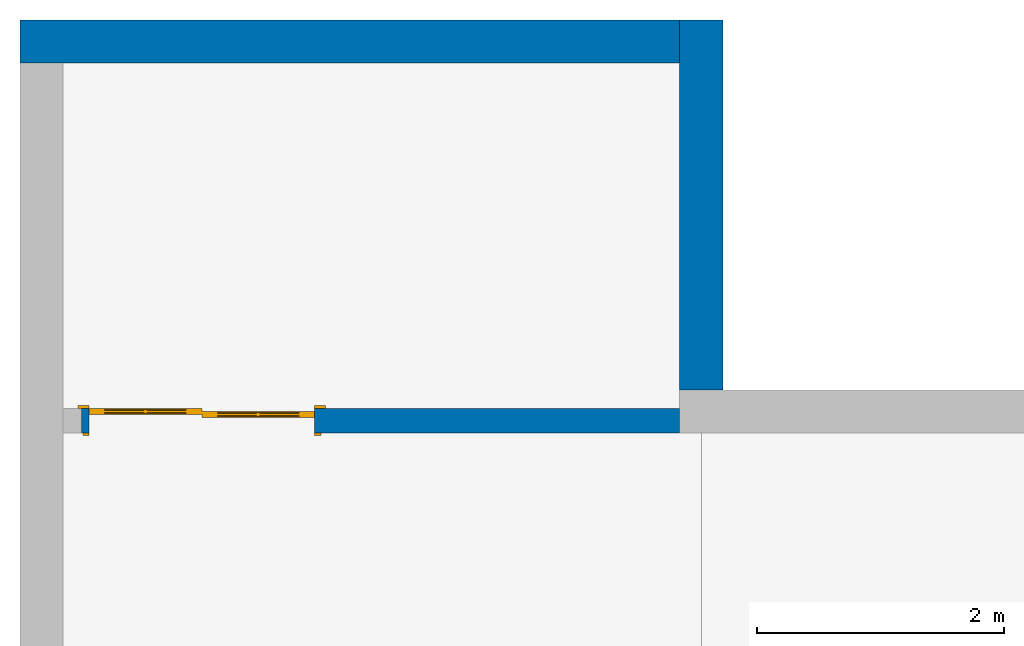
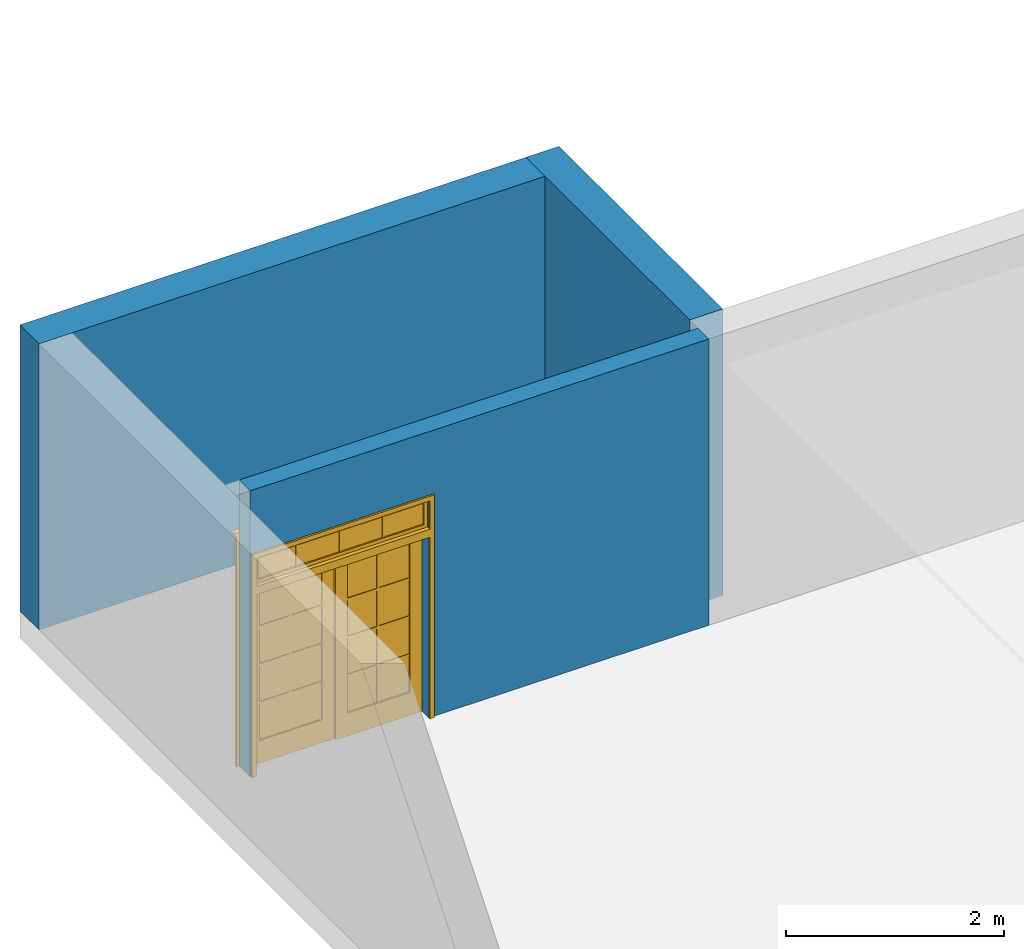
# One storey, part 2 of 5: 3 walls, 1 door, 1 opening.
"""IFC2X3 building model written with IfcOpenShell, lengths in metres."""

from ifc_helpers import new_model, entity, si_unit, converted_unit, derived_unit, direction, frame, frame_2d, origin, place, context, subcontext, project, spatial, rectangle, extrude, faceted_brep, source, transform, mapped, material, material_list, layer, layer_set, layer_usage, type_object, type_shapes, element, fill, save


model = new_model("IFC2X3")

# Units and contexts
model_context = context("Model", 3, precision=1e-05, world=origin(), true_north=direction((6.123031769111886e-17, 1.0)))
body_context = subcontext(model_context, "Body", "Model", "MODEL_VIEW")
ifc_project = project(units=[si_unit("LENGTHUNIT", "METRE"), si_unit("AREAUNIT", "SQUARE_METRE"), si_unit("VOLUMEUNIT", "CUBIC_METRE"), converted_unit("PLANEANGLEUNIT", "DEGREE", entity("IfcRatioMeasure", 0.017453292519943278), si_unit("PLANEANGLEUNIT", "RADIAN"), dimensions=[0, 0, 0, 0, 0, 0, 0]), si_unit("MASSUNIT", "GRAM", prefix="KILO"), derived_unit("MASSDENSITYUNIT", [(si_unit("MASSUNIT", "GRAM", prefix="KILO"), 1), (si_unit("LENGTHUNIT", "METRE"), -3)]), derived_unit("MOMENTOFINERTIAUNIT", [(si_unit("LENGTHUNIT", "METRE"), 4)]), si_unit("TIMEUNIT", "SECOND"), si_unit("FREQUENCYUNIT", "HERTZ"), si_unit("THERMODYNAMICTEMPERATUREUNIT", "DEGREE_CELSIUS"), derived_unit("THERMALTRANSMITTANCEUNIT", [(si_unit("MASSUNIT", "GRAM", prefix="KILO"), 1), (si_unit("THERMODYNAMICTEMPERATUREUNIT", "KELVIN"), -1), (si_unit("TIMEUNIT", "SECOND"), -3)]), derived_unit("VOLUMETRICFLOWRATEUNIT", [(si_unit("LENGTHUNIT", "METRE"), 3), (si_unit("TIMEUNIT", "SECOND"), -1)]), derived_unit("MASSFLOWRATEUNIT", [(si_unit("MASSUNIT", "GRAM", prefix="KILO"), 1), (si_unit("TIMEUNIT", "SECOND"), -1)]), derived_unit("ROTATIONALFREQUENCYUNIT", [(si_unit("TIMEUNIT", "SECOND"), -1)]), si_unit("ELECTRICCURRENTUNIT", "AMPERE"), si_unit("ELECTRICVOLTAGEUNIT", "VOLT"), si_unit("POWERUNIT", "WATT"), si_unit("FORCEUNIT", "NEWTON", prefix="KILO"), si_unit("ILLUMINANCEUNIT", "LUX"), si_unit("LUMINOUSFLUXUNIT", "LUMEN"), si_unit("LUMINOUSINTENSITYUNIT", "CANDELA"), derived_unit("USERDEFINED", [(si_unit("MASSUNIT", "GRAM", prefix="KILO"), -1), (si_unit("LENGTHUNIT", "METRE"), -2), (si_unit("TIMEUNIT", "SECOND"), 3), (si_unit("LUMINOUSFLUXUNIT", "LUMEN"), 1)]), derived_unit("SOUNDPOWERUNIT", [(si_unit("MASSUNIT", "GRAM", prefix="KILO"), 1), (si_unit("LENGTHUNIT", "METRE"), 2), (si_unit("TIMEUNIT", "SECOND"), -3)]), derived_unit("SOUNDPRESSUREUNIT", [(si_unit("MASSUNIT", "GRAM", prefix="KILO"), 1), (si_unit("LENGTHUNIT", "METRE"), -1), (si_unit("TIMEUNIT", "SECOND"), -2)]), derived_unit("LINEARVELOCITYUNIT", [(si_unit("LENGTHUNIT", "METRE"), 1), (si_unit("TIMEUNIT", "SECOND"), -1)]), si_unit("PRESSUREUNIT", "PASCAL"), derived_unit("USERDEFINED", [(si_unit("LENGTHUNIT", "METRE"), -2), (si_unit("MASSUNIT", "GRAM", prefix="KILO"), 1), (si_unit("TIMEUNIT", "SECOND"), -2)]), derived_unit("LINEARFORCEUNIT", [(si_unit("MASSUNIT", "GRAM", prefix="KILO"), 1), (si_unit("LENGTHUNIT", "METRE"), 1), (si_unit("TIMEUNIT", "SECOND"), -2), (si_unit("LENGTHUNIT", "METRE"), -1)]), derived_unit("PLANARFORCEUNIT", [(si_unit("MASSUNIT", "GRAM", prefix="KILO"), 1), (si_unit("LENGTHUNIT", "METRE"), 1), (si_unit("TIMEUNIT", "SECOND"), -2), (si_unit("LENGTHUNIT", "METRE"), -2)])], contexts=[model_context])

# Site, building, storey
site_placement = place(None, origin())
site = spatial("IfcSite", under=ifc_project, at=site_placement, Name="Default", CompositionType="ELEMENT")
building_placement = place(site_placement, origin())
building = spatial("IfcBuilding", under=site, at=building_placement, CompositionType="ELEMENT")
storey_placement = place(building_placement, frame((0.0, 0.0, -2.3)))
storey = spatial("IfcBuildingStorey", under=building, at=storey_placement, Name="B1", CompositionType="ELEMENT", Elevation=-2.3)

# Walls
ifc_material_1 = material(Name="Masonry - Concrete Block")
ifc_layer_1 = layer(ifc_material_1, 0.35)
ifc_layer_set_1 = layer_set([ifc_layer_1], Name="Basic Wall:CW 350")
ifc_layer_usage_1 = layer_usage(ifc_layer_set_1, "AXIS2", "NEGATIVE", 0.175)
wall_type_1 = type_object("IfcWallType", Name="Basic Wall:CW 350", PredefinedType="STANDARD", material=ifc_layer_set_1)
wall_1_placement = place(storey_placement, frame((6.782683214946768, 2.999707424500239, 0.0), z_axis=(0.0, 0.0, 1.0), x_axis=(0.0, 1.0, 0.0)))
element("IfcWallStandardCase", 1, at=wall_1_placement, inside=storey, type_object=wall_type_1, material=ifc_layer_usage_1, Name="Basic Wall:CW 350", ObjectType="Basic Wall:CW 350", context=body_context, shape_type="SweptSolid", body=[
    extrude(rectangle(XDim=2.9999999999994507, YDim=0.3500000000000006, at=frame_2d((1.4999999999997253, 0.0), x_axis=(-1.0, 0.0))), origin(), (0.0, 0.0, 1.0), 3.2),
])
ifc_layer_usage_2 = layer_usage(ifc_layer_set_1, "AXIS2", "NEGATIVE", 0.175)
wall_2_placement = place(storey_placement, frame((6.607683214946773, 5.82470742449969, 0.0), z_axis=(0.0, 0.0, 1.0), x_axis=(-1.0, 0.0, 0.0)))
element("IfcWallStandardCase", 2, at=wall_2_placement, inside=storey, type_object=wall_type_1, material=ifc_layer_usage_2, Name="Basic Wall:CW 350", ObjectType="Basic Wall:CW 350", context=body_context, shape_type="SweptSolid", body=[
    extrude(rectangle(XDim=5.349999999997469, YDim=0.3500000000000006, at=frame_2d((2.6749999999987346, 0.0), x_axis=(-1.0, 0.0))), origin(), (0.0, 0.0, 1.0), 3.2),
])

# Wall, opening, door
ifc_layer_2 = layer(ifc_material_1, 0.2)
ifc_layer_set_2 = layer_set([ifc_layer_2], Name="Basic Wall:CW 200")
ifc_layer_usage_3 = layer_usage(ifc_layer_set_2, "AXIS2", "NEGATIVE", 0.1)
wall_type_2 = type_object("IfcWallType", Name="Basic Wall:CW 200", PredefinedType="STANDARD", material=ifc_layer_set_2)
wall_3_placement = place(storey_placement, frame((6.607683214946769, 2.7497074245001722, 0.0), z_axis=(0.0, 0.0, 1.0), x_axis=(-1.0, 0.0, 0.0)))
wall_3 = element("IfcWallStandardCase", 3, at=wall_3_placement, inside=storey, type_object=wall_type_2, material=ifc_layer_usage_3, Name="Basic Wall:CW 200", ObjectType="Basic Wall:CW 200", context=body_context, shape_type="SweptSolid", body=[
    extrude(rectangle(XDim=4.8499999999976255, YDim=0.2, at=frame_2d((2.4249999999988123, 2.7755575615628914e-17), x_axis=(1.0, 0.0))), origin(), (0.0, 0.0, 1.0), 3.2),
])
opening_placement = place(wall_3_placement, frame((4.789999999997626, 0.09999999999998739, 0.0)))
opening = element("IfcOpeningElement", 4, at=opening_placement, cuts=wall_3, Name="Double_8_lite_patio_door_5282:36x2\" x 80\" w/transom\":1", ObjectType="Opening", context=body_context, shape_type="SweptSolid", body=[
    extrude(rectangle(XDim=1.8287999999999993, YDim=2.4384000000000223, at=frame_2d((1.2192000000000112, 0.9143999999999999), x_axis=(0.0, 1.0))), frame((0.0, 0.0, 0.0), z_axis=(0.0, -1.0, 0.0), x_axis=(0.0, 0.0, 1.0)), (0.0, 0.0, 1.0), 0.2),
])
ifc_material_2 = material(Name="<Unnamed>")
ifc_material_3 = material(Name="Door - Panel")
ifc_material_4 = material(Name="Glazing - Window Glazing")
ifc_material_5 = material(Name="Finishes - Exterior - Trim")
ifc_material_6 = material(Name="Finishes - Interior - Trim")
ifc_material_list_1 = material_list([ifc_material_2, ifc_material_3, ifc_material_3, ifc_material_4, ifc_material_3, ifc_material_3, ifc_material_3, ifc_material_4, ifc_material_3, ifc_material_5, ifc_material_4, ifc_material_3, ifc_material_3, ifc_material_5, ifc_material_5, ifc_material_5, ifc_material_6])
ifc_material_list_2 = material_list([ifc_material_2, ifc_material_3, ifc_material_3, ifc_material_4, ifc_material_3, ifc_material_3, ifc_material_3, ifc_material_4, ifc_material_3, ifc_material_5, ifc_material_4, ifc_material_3, ifc_material_3, ifc_material_5, ifc_material_5, ifc_material_5, ifc_material_6])
door_style = type_object("IfcDoorStyle", Name="Double_8_lite_patio_door_5282:36x2\" x 80\" w/transom\"", ConstructionType="NOTDEFINED", OperationType="NOTDEFINED", ParameterTakesPrecedence=False, Sizeable=False, material=ifc_material_list_2)
shared_shape = source(origin(), body_context, "Body", "Brep", [
    faceted_brep([(0.1524000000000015, 0.2000000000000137, 2.0319999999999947), (1.9812000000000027, 0.20000000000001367, 2.0319999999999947), (1.9812000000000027, 0.0, 2.0319999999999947), (0.1524000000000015, 0.0, 2.0319999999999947), (0.1524000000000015, 0.2000000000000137, 2.120899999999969), (0.1524000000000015, 0.0, 2.120899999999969), (1.9812000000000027, 0.0, 2.120899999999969), (1.9812000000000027, 0.20000000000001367, 2.120899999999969)], [[[0, 1, 2, 3]], [[4, 5, 6, 7]], [[3, 5, 4, 0]], [[2, 6, 5, 3]], [[1, 7, 6, 2]], [[0, 4, 7, 1]]]),
    faceted_brep([(0.5969000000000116, 0.1666750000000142, 2.1589999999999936), (0.5969000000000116, 0.1666750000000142, 2.40030000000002), (0.6223000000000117, 0.1666750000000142, 2.40030000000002), (0.6223000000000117, 0.1666750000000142, 2.1589999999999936), (0.5969000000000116, 0.1349250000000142, 2.1589999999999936), (0.6223000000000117, 0.1349250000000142, 2.1589999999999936), (0.6223000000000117, 0.1349250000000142, 2.40030000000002), (0.5969000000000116, 0.1349250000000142, 2.40030000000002)], [[[0, 1, 2, 3]], [[4, 5, 6, 7]], [[3, 5, 4, 0]], [[2, 6, 5, 3]], [[1, 7, 6, 2]], [[0, 4, 7, 1]]]),
    faceted_brep([(1.5112999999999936, 0.1666750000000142, 2.15899999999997), (1.5112999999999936, 0.1666750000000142, 2.4002999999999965), (1.536699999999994, 0.1666750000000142, 2.4002999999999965), (1.536699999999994, 0.1666750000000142, 2.15899999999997), (1.5112999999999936, 0.1349250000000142, 2.15899999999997), (1.536699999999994, 0.1349250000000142, 2.15899999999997), (1.536699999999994, 0.1349250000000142, 2.4002999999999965), (1.5112999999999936, 0.1349250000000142, 2.4002999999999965)], [[[0, 1, 2, 3]], [[4, 5, 6, 7]], [[3, 5, 4, 0]], [[2, 6, 5, 3]], [[1, 7, 6, 2]], [[0, 4, 7, 1]]]),
    faceted_brep([(0.9652000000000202, 0.058725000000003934, 1.93040000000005), (0.9651999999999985, 0.058725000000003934, 0.25400000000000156), (0.2286000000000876, 0.058725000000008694, 0.2540000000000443), (0.2286000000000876, 0.058725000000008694, 1.93040000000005), (0.9652000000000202, 0.03967500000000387, 1.93040000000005), (0.22860000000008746, 0.03967500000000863, 1.93040000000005), (0.22860000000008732, 0.03967500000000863, 0.2540000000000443), (0.9651999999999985, 0.03967500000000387, 0.25400000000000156)], [[[0, 1, 2, 3]], [[4, 5, 6, 7]], [[3, 5, 4, 0]], [[2, 6, 5, 3]], [[1, 7, 6, 2]], [[0, 4, 7, 1]]]),
    faceted_brep([(0.5969000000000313, 0.06507500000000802, 0.6794500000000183), (0.5969000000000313, 0.06507500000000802, 1.0795000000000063), (0.2794000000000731, 0.06507500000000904, 1.0795000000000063), (0.2794000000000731, 0.06507500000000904, 1.1049000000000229), (0.5969000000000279, 0.06507500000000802, 1.1049000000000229), (0.5969000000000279, 0.06507500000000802, 1.5049500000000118), (0.2794000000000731, 0.06507500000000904, 1.5049500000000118), (0.2794000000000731, 0.06507500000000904, 1.5303500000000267), (0.596900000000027, 0.06507500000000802, 1.5303500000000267), (0.596900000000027, 0.06507500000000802, 1.9304000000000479), (0.622300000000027, 0.06507500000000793, 1.9304000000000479), (0.622300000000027, 0.06507500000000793, 1.5303500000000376), (0.9397999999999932, 0.06507500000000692, 1.5303500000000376), (0.9397999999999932, 0.06507500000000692, 1.5049500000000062), (0.6223000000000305, 0.06507500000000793, 1.5049500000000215), (0.6223000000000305, 0.06507500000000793, 1.1049000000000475), (0.9397999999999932, 0.06507500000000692, 1.1049000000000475), (0.9397999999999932, 0.06507500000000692, 1.0795000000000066), (0.6223000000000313, 0.06507500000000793, 1.0795000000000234), (0.6223000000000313, 0.06507500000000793, 0.6794500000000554), (0.9397999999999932, 0.06507500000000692, 0.6794500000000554), (0.9397999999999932, 0.06507500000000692, 0.6540499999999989), (0.6223000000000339, 0.06507500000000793, 0.6540500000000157), (0.6223000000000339, 0.06507500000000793, 0.25400000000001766), (0.5969000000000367, 0.06507500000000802, 0.25400000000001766), (0.5969000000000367, 0.06507500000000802, 0.6540500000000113), (0.2794000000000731, 0.06507500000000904, 0.6540500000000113), (0.2794000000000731, 0.06507500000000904, 0.6794500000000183), (0.5969000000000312, 0.033325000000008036, 0.6794500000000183), (0.2794000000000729, 0.033325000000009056, 0.6794500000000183), (0.2794000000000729, 0.033325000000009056, 0.6540500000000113), (0.5969000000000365, 0.033325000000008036, 0.6540500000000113), (0.5969000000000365, 0.033325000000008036, 0.25400000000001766), (0.6223000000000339, 0.033325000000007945, 0.25400000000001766), (0.6223000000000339, 0.033325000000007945, 0.6540500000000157), (0.9397999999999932, 0.03332500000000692, 0.6540499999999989), (0.9397999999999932, 0.03332500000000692, 0.6794500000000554), (0.6223000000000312, 0.033325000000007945, 0.6794500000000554), (0.6223000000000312, 0.033325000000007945, 1.0795000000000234), (0.9397999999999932, 0.03332500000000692, 1.0795000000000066), (0.9397999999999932, 0.03332500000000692, 1.1049000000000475), (0.6223000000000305, 0.033325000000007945, 1.1049000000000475), (0.6223000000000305, 0.033325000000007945, 1.5049500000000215), (0.9397999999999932, 0.03332500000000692, 1.5049500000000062), (0.9397999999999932, 0.03332500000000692, 1.5303500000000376), (0.6223000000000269, 0.033325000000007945, 1.5303500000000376), (0.6223000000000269, 0.033325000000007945, 1.9304000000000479), (0.5969000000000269, 0.033325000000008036, 1.9304000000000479), (0.596900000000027, 0.033325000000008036, 1.5303500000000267), (0.2794000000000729, 0.033325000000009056, 1.5303500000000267), (0.2794000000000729, 0.033325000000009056, 1.5049500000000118), (0.5969000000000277, 0.033325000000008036, 1.5049500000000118), (0.5969000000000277, 0.033325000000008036, 1.1049000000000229), (0.2794000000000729, 0.033325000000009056, 1.1049000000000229), (0.2794000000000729, 0.033325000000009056, 1.0795000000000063), (0.5969000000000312, 0.033325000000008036, 1.0795000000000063)], [[[0, 1, 2, 3, 4, 5, 6, 7, 8, 9, 10, 11, 12, 13, 14, 15, 16, 17, 18, 19, 20, 21, 22, 23, 24, 25, 26, 27]], [[28, 29, 30, 31, 32, 33, 34, 35, 36, 37, 38, 39, 40, 41, 42, 43, 44, 45, 46, 47, 48, 49, 50, 51, 52, 53, 54, 55]], [[27, 29, 28, 0]], [[26, 30, 29, 27]], [[25, 31, 30, 26]], [[24, 32, 31, 25]], [[23, 33, 32, 24]], [[22, 34, 33, 23]], [[21, 35, 34, 22]], [[20, 36, 35, 21]], [[19, 37, 36, 20]], [[18, 38, 37, 19]], [[17, 39, 38, 18]], [[16, 40, 39, 17]], [[15, 41, 40, 16]], [[14, 42, 41, 15]], [[13, 43, 42, 14]], [[12, 44, 43, 13]], [[11, 45, 44, 12]], [[10, 46, 45, 11]], [[9, 47, 46, 10]], [[8, 48, 47, 9]], [[7, 49, 48, 8]], [[6, 50, 49, 7]], [[5, 51, 50, 6]], [[4, 52, 51, 5]], [[3, 53, 52, 4]], [[2, 54, 53, 3]], [[1, 55, 54, 2]], [[0, 28, 55, 1]]]),
    faceted_brep([(1.0668000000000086, 0.0746000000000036, 2.032000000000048), (1.0668000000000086, 0.0746000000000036, 0.0), (0.152400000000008, 0.0746000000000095, 0.0), (0.152400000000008, 0.0746000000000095, 2.032000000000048), (0.9398000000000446, 0.07460000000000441, 1.9304000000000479), (0.2794000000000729, 0.07460000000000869, 1.9304000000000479), (0.2794000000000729, 0.07460000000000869, 0.25400000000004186), (0.9397999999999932, 0.07460000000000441, 0.25400000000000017), (1.0668000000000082, 0.023800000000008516, 2.032000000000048), (0.15240000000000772, 0.02380000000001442, 2.032000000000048), (0.15240000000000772, 0.02380000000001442, 0.0), (1.0668000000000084, 0.023800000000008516, 0.0), (0.9398000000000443, 0.023800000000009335, 1.9304000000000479), (0.9397999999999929, 0.023800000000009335, 0.25400000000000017), (0.27940000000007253, 0.0238000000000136, 0.25400000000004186), (0.27940000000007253, 0.0238000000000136, 1.9304000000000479)], [[[0, 1, 2, 3], [4, 5, 6, 7]], [[8, 9, 10, 11], [12, 13, 14, 15]], [[3, 9, 8, 0]], [[2, 10, 9, 3]], [[1, 11, 10, 2]], [[0, 8, 11, 1]], [[7, 13, 12, 4]], [[6, 14, 13, 7]], [[5, 15, 14, 6]], [[4, 12, 15, 5]]]),
    faceted_brep([(1.5366999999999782, 0.04127500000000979, 0.6794500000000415), (1.854199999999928, 0.04127500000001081, 0.6794500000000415), (1.854199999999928, 0.04127500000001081, 0.6540499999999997), (1.5366999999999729, 0.04127500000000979, 0.6540499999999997), (1.5366999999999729, 0.04127500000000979, 0.2540000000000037), (1.5112999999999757, 0.0412750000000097, 0.2540000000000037), (1.5112999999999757, 0.0412750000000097, 0.6540500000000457), (1.1938000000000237, 0.04127500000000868, 0.6540500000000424), (1.1938000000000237, 0.04127500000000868, 0.6794500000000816), (1.5112999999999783, 0.0412750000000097, 0.6794500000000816), (1.5112999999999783, 0.0412750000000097, 1.079500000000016), (1.1938000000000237, 0.04127500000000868, 1.07950000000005), (1.1938000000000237, 0.04127500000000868, 1.1049000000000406), (1.5112999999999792, 0.0412750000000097, 1.1049000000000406), (1.5112999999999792, 0.0412750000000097, 1.5049500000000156), (1.1938000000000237, 0.04127500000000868, 1.50495000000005), (1.1938000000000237, 0.04127500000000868, 1.5303500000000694), (1.5112999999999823, 0.0412750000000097, 1.5303500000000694), (1.5112999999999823, 0.0412750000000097, 1.9304000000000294), (1.5366999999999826, 0.04127500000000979, 1.9304000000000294), (1.5366999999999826, 0.04127500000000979, 1.5303500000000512), (1.854199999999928, 0.04127500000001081, 1.5303500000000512), (1.854199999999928, 0.04127500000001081, 1.5049499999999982), (1.5366999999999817, 0.04127500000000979, 1.5049499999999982), (1.5366999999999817, 0.04127500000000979, 1.104900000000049), (1.854199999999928, 0.04127500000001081, 1.104900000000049), (1.854199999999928, 0.04127500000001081, 1.079499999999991), (1.5366999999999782, 0.04127500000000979, 1.079499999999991), (1.5366999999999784, 0.009525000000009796, 0.6794500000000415), (1.5366999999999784, 0.009525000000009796, 1.079499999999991), (1.8541999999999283, 0.009525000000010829, 1.079499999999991), (1.8541999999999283, 0.009525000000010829, 1.104900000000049), (1.536699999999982, 0.009525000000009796, 1.104900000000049), (1.536699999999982, 0.009525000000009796, 1.5049499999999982), (1.8541999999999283, 0.009525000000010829, 1.5049499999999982), (1.8541999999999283, 0.009525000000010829, 1.5303500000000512), (1.5366999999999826, 0.009525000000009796, 1.5303500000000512), (1.5366999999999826, 0.009525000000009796, 1.9304000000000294), (1.5112999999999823, 0.009525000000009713, 1.9304000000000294), (1.5112999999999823, 0.009525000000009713, 1.5303500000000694), (1.193800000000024, 0.009525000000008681, 1.5303500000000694), (1.193800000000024, 0.009525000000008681, 1.50495000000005), (1.5112999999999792, 0.009525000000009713, 1.5049500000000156), (1.5112999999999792, 0.009525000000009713, 1.1049000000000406), (1.193800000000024, 0.009525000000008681, 1.1049000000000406), (1.193800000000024, 0.009525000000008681, 1.07950000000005), (1.5112999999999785, 0.009525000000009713, 1.079500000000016), (1.5112999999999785, 0.009525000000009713, 0.6794500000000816), (1.193800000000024, 0.009525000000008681, 0.6794500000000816), (1.193800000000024, 0.009525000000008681, 0.6540500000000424), (1.5112999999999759, 0.009525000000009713, 0.6540500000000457), (1.5112999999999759, 0.009525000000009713, 0.2540000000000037), (1.536699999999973, 0.009525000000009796, 0.2540000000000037), (1.536699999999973, 0.009525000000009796, 0.6540499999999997), (1.8541999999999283, 0.009525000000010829, 0.6540499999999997), (1.8541999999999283, 0.009525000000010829, 0.6794500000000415)], [[[0, 1, 2, 3, 4, 5, 6, 7, 8, 9, 10, 11, 12, 13, 14, 15, 16, 17, 18, 19, 20, 21, 22, 23, 24, 25, 26, 27]], [[28, 29, 30, 31, 32, 33, 34, 35, 36, 37, 38, 39, 40, 41, 42, 43, 44, 45, 46, 47, 48, 49, 50, 51, 52, 53, 54, 55]], [[27, 29, 28, 0]], [[26, 30, 29, 27]], [[25, 31, 30, 26]], [[24, 32, 31, 25]], [[23, 33, 32, 24]], [[22, 34, 33, 23]], [[21, 35, 34, 22]], [[20, 36, 35, 21]], [[19, 37, 36, 20]], [[18, 38, 37, 19]], [[17, 39, 38, 18]], [[16, 40, 39, 17]], [[15, 41, 40, 16]], [[14, 42, 41, 15]], [[13, 43, 42, 14]], [[12, 44, 43, 13]], [[11, 45, 44, 12]], [[10, 46, 45, 11]], [[9, 47, 46, 10]], [[8, 48, 47, 9]], [[7, 49, 48, 8]], [[6, 50, 49, 7]], [[5, 51, 50, 6]], [[4, 52, 51, 5]], [[3, 53, 52, 4]], [[2, 54, 53, 3]], [[1, 55, 54, 2]], [[0, 28, 55, 1]]]),
    faceted_brep([(1.168399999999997, 0.03492500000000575, 1.9304000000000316), (1.904999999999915, 0.03492500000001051, 1.9304000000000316), (1.904999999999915, 0.03492500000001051, 0.2540000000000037), (1.1684000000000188, 0.03492500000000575, 0.25400000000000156), (1.1683999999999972, 0.01587500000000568, 1.9304000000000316), (1.1684000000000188, 0.01587500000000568, 0.25400000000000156), (1.9049999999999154, 0.015875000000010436, 0.2540000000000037), (1.9049999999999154, 0.015875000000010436, 1.9304000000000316)], [[[0, 1, 2, 3]], [[4, 5, 6, 7]], [[3, 5, 4, 0]], [[2, 6, 5, 3]], [[1, 7, 6, 2]], [[0, 4, 7, 1]]]),
    faceted_brep([(1.0668000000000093, 0.05080000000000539, 2.032000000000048), (1.9812000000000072, 0.050800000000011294, 2.032000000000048), (1.9812000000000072, 0.050800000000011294, 0.0), (1.0668000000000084, 0.05080000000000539, 0.0), (1.1938000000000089, 0.05080000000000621, 1.9304000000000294), (1.1938000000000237, 0.05080000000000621, 0.25400000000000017), (1.8541999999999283, 0.050800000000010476, 0.2540000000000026), (1.8541999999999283, 0.050800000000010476, 1.9304000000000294), (1.0668000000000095, 0.0, 2.032000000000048), (1.0668000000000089, 0.0, 0.0), (1.9812000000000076, 0.0, 0.0), (1.9812000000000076, 0.0, 2.032000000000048), (1.1938000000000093, 0.0, 1.9304000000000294), (1.8541999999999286, 0.0, 1.9304000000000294), (1.8541999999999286, 0.0, 0.2540000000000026), (1.1938000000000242, 0.0, 0.25400000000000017)], [[[0, 1, 2, 3], [4, 5, 6, 7]], [[8, 9, 10, 11], [12, 13, 14, 15]], [[3, 9, 8, 0]], [[2, 10, 9, 3]], [[1, 11, 10, 2]], [[0, 8, 11, 1]], [[7, 13, 12, 4]], [[6, 14, 13, 7]], [[5, 15, 14, 6]], [[4, 12, 15, 5]]]),
    faceted_brep([(2.070099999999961, 0.0, 2.438400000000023), (0.06349999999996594, 0.0, 2.4384000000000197), (0.06349999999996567, 0.0, 2.5781000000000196), (0.03809999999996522, 0.0, 2.60350000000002), (0.03809999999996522, 0.0, 2.6162000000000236), (2.0954999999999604, 0.0, 2.6162000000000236), (2.0954999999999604, 0.0, 2.603500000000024), (2.0700999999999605, 0.0, 2.5781000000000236), (2.070099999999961, -0.02539999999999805, 2.438400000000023), (0.06349999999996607, -0.025400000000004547, 2.4384000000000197), (2.0700999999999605, -0.02539999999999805, 2.5781000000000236), (2.0954999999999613, -0.0507999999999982, 2.603500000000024), (2.0954999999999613, -0.0507999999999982, 2.6162000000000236), (0.03809999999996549, -0.05080000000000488, 2.6162000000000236), (0.06349999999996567, -0.025400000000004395, 2.5781000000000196), (0.03809999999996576, -0.050800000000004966, 2.60350000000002)], [[[0, 1, 2, 3, 4, 5, 6, 7]], [[0, 8, 9, 1]], [[7, 10, 8, 0]], [[6, 11, 10, 7]], [[5, 12, 11, 6]], [[4, 13, 12, 5]], [[10, 14, 9, 8]], [[11, 15, 14, 10]], [[12, 13, 15, 11]], [[14, 2, 1, 9]], [[15, 3, 2, 14]], [[13, 4, 3, 15]]]),
    faceted_brep([(0.190499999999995, 0.14127500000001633, 2.4003000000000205), (0.190499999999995, 0.14127500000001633, 2.1589999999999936), (1.948433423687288, 0.14127500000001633, 2.1589999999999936), (1.948433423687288, 0.14127500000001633, 2.4003000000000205), (0.190499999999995, 0.1603250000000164, 2.4003000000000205), (1.948433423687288, 0.1603250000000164, 2.4003000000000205), (1.948433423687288, 0.1603250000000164, 2.1589999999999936), (0.190499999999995, 0.1603250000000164, 2.1589999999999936)], [[[0, 1, 2, 3]], [[4, 5, 6, 7]], [[3, 5, 4, 0]], [[2, 6, 5, 3]], [[1, 7, 6, 2]], [[0, 4, 7, 1]]]),
    faceted_brep([(0.1470665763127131, 0.12540000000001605, 2.4383999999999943), (0.1470665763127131, 0.12540000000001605, 2.1208999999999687), (1.981200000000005, 0.12540000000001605, 2.1208999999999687), (1.981200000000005, 0.12540000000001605, 2.4383999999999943), (0.190499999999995, 0.12540000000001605, 2.400299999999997), (1.9430999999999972, 0.12540000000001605, 2.400299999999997), (1.943099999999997, 0.12540000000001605, 2.158999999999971), (0.19049999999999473, 0.12540000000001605, 2.158999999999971), (0.1470665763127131, 0.1762000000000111, 2.4383999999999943), (1.981200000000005, 0.1762000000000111, 2.4383999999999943), (1.981200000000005, 0.1762000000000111, 2.1208999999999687), (0.1470665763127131, 0.1762000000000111, 2.1208999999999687), (0.190499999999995, 0.1762000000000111, 2.400299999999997), (0.19049999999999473, 0.1762000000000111, 2.158999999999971), (1.943099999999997, 0.1762000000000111, 2.158999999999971), (1.9430999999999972, 0.1762000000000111, 2.400299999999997)], [[[0, 1, 2, 3], [4, 5, 6, 7]], [[8, 9, 10, 11], [12, 13, 14, 15]], [[3, 9, 8, 0]], [[2, 10, 9, 3]], [[1, 11, 10, 2]], [[0, 8, 11, 1]], [[7, 13, 12, 4]], [[6, 14, 13, 7]], [[5, 15, 14, 6]], [[4, 12, 15, 5]]]),
    faceted_brep([(1.0541000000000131, 0.1666750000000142, 2.158999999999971), (1.0541000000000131, 0.1666750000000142, 2.4002999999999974), (1.0795000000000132, 0.1666750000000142, 2.4002999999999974), (1.0795000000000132, 0.1666750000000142, 2.158999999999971), (1.0541000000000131, 0.1349250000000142, 2.158999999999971), (1.0795000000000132, 0.1349250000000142, 2.158999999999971), (1.0795000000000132, 0.1349250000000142, 2.4002999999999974), (1.0541000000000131, 0.1349250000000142, 2.4002999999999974)], [[[0, 1, 2, 3]], [[4, 5, 6, 7]], [[3, 5, 4, 0]], [[2, 6, 5, 3]], [[1, 7, 6, 2]], [[0, 4, 7, 1]]]),
    faceted_brep([(0.15240000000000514, 0.0, 2.1208999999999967), (0.15240000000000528, 0.0, 2.0320000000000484), (0.15240000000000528, -0.025399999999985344, 2.0320000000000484), (0.15240000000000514, -0.025399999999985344, 2.1208999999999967), (1.9812000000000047, 0.0, 2.1209000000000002), (1.9812000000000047, -0.025399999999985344, 2.1209000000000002), (1.981200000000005, -0.025399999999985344, 2.0320000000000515), (1.981200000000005, 0.0, 2.0320000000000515)], [[[0, 1, 2, 3]], [[4, 5, 6, 7]], [[3, 5, 4, 0]], [[2, 6, 5, 3]], [[1, 7, 6, 2]], [[0, 4, 7, 1]]]),
    faceted_brep([(0.1524000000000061, 0.0, 0.0), (0.1524000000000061, -0.02539999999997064, 0.0), (0.06350000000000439, -0.02539999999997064, 0.0), (0.06350000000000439, 0.0, 0.0), (0.1524000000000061, 0.0, 2.4384000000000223), (0.06350000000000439, 0.0, 2.4384000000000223), (0.06350000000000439, -0.02539999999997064, 2.4384000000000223), (0.1524000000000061, -0.02539999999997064, 2.4384000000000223)], [[[0, 1, 2, 3]], [[4, 0, 3, 5]], [[5, 3, 2, 6]], [[6, 2, 1, 7]], [[7, 1, 0, 4]], [[4, 5, 6, 7]]]),
    faceted_brep([(2.0701000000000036, 0.0, 0.0), (2.0701000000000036, -0.025399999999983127, 0.0), (1.981200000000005, -0.025399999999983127, 0.0), (1.981200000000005, 0.0, 0.0), (2.0701000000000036, 0.0, 2.4384000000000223), (1.981200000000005, 0.0, 2.4384000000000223), (1.981200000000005, -0.025399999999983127, 2.4384000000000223), (2.0701000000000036, -0.025399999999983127, 2.4384000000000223)], [[[0, 1, 2, 3]], [[4, 0, 3, 5]], [[5, 3, 2, 6]], [[6, 2, 1, 7]], [[7, 1, 0, 4]], [[4, 5, 6, 7]]]),
    faceted_brep([(1.9812000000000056, 0.21905000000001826, 0.0), (2.0319999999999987, 0.21905000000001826, 0.0), (2.0319999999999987, 0.20000000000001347, 0.0), (1.9812000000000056, 0.20000000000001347, 0.0), (1.9812000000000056, 0.21905000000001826, 2.4384000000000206), (1.9812000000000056, 0.21905000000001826, 2.1208999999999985), (1.9812000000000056, 0.20000000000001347, 2.1208999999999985), (1.9812000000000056, 0.20000000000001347, 2.4383999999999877), (2.032000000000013, 0.20000000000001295, 2.4892000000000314), (0.10160000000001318, 0.20000000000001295, 2.4892000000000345), (0.10160000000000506, 0.20000000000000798, 0.0), (0.15240000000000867, 0.20000000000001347, 0.0), (0.15240000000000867, 0.20000000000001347, 2.0320000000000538), (1.9812000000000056, 0.20000000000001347, 2.0320000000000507), (0.15240000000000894, 0.20000000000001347, 2.438399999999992), (0.15240000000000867, 0.20000000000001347, 2.120900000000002), (2.0319999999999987, 0.21905000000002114, 2.4892000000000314), (1.9812000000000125, 0.21905000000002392, 2.0320000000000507), (0.1524000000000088, 0.2190500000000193, 2.0320000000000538), (0.1524000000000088, 0.2190500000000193, 0.0), (0.10160000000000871, 0.2190500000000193, 0.0), (0.10160000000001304, 0.21905000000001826, 2.4892000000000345), (0.1524000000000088, 0.2190500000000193, 2.4384000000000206), (0.15240000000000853, 0.21905000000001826, 2.120900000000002)], [[[0, 1, 2, 3]], [[4, 5, 6, 7]], [[2, 8, 9, 10, 11, 12, 13, 3], [14, 7, 6, 15]], [[1, 16, 8, 2]], [[0, 17, 18, 19, 20, 21, 16, 1], [4, 22, 23, 5]], [[20, 10, 9, 21]], [[19, 11, 10, 20]], [[14, 15, 23, 22]], [[7, 14, 22, 4]], [[16, 21, 9, 8]], [[12, 18, 17, 13]], [[6, 5, 23, 15]], [[19, 18, 12, 11]], [[3, 13, 17, 0]]]),
])
type_shapes(door_style, [shared_shape])
door_placement = place(opening_placement, frame((-1.9812000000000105, -0.20000000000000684, 0.0)))
door = element("IfcDoor", 5, at=door_placement, inside=storey, type_object=door_style, material=ifc_material_list_1, Name="Double_8_lite_patio_door_5282:36x2\" x 80\" w/transom\"", ObjectType="Double_8_lite_patio_door_5282:36x2\" x 80\" w/transom\"", OverallHeight=2.4384000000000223, OverallWidth=1.8287999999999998, context=body_context, shape_type="MappedRepresentation", body=[
    mapped(shared_shape, transform((0.0, 0.0, 0.0), scale=1.0)),
])
fill(opening, door)

save(model, "model.ifc")
